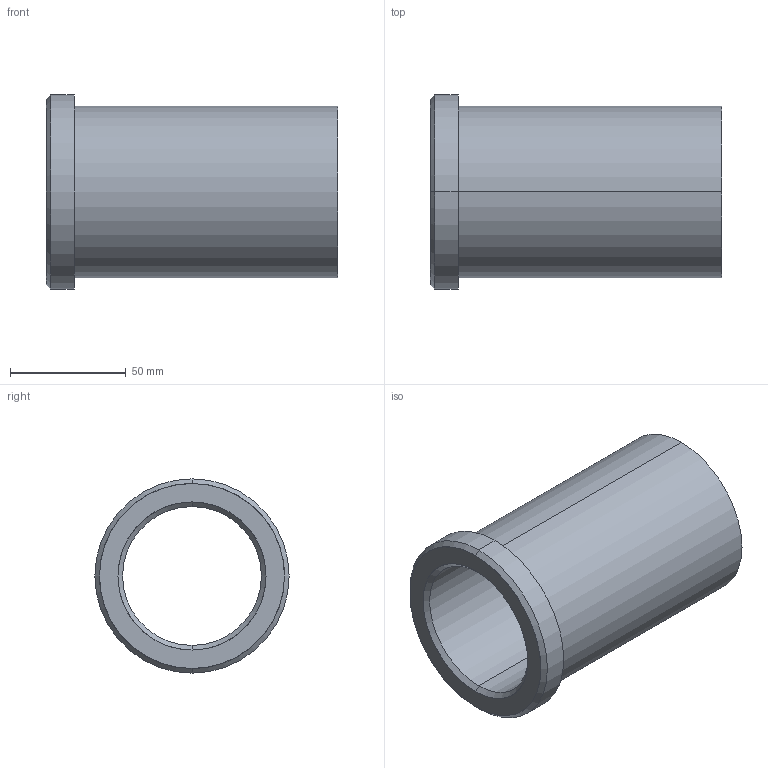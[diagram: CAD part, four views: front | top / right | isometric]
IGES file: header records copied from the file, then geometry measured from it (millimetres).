
Start section: START RECORD GO HERE.
Global section: file name: 353-60X126.igs; native system: DASSAULT SYSTEMES CATIA V5 R20 - www.3ds.com; preprocessor: CATIA Version 5 Release 20 ; author: Utente; organization: NB04-ASUS; date: 20210514.195755; units: millimetre
Bounding box: 126 x 84 x 84 mm (x, y, z)
Surface area: 58079.6 mm2 (no closed solid volume)
Topology: 0 solids, 0 shells, 15 faces, 96 edges, 96 vertices
Faces by surface type: revolution 12, plane 3
